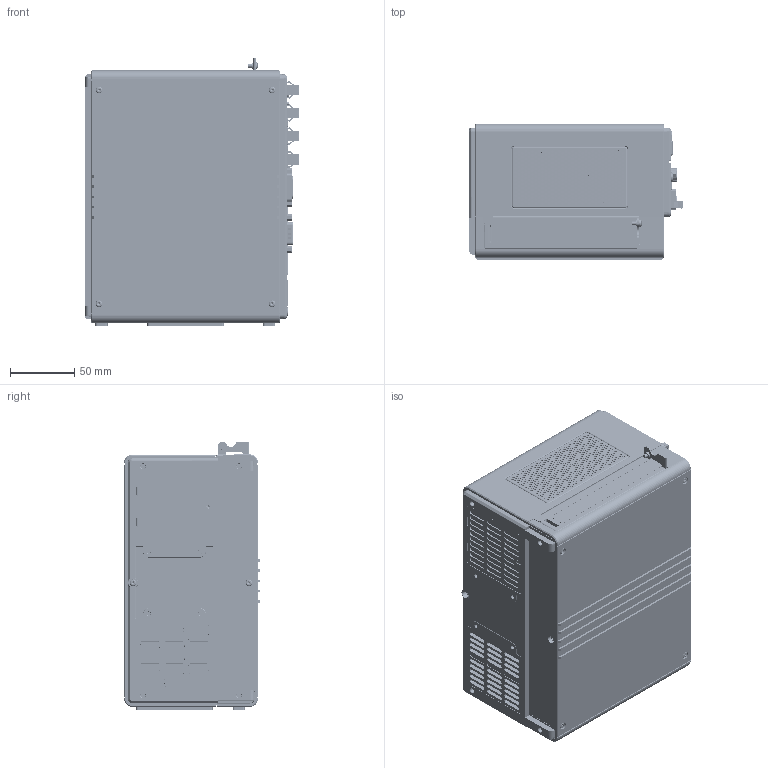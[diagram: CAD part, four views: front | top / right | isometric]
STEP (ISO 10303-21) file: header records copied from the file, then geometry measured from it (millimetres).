
FILE_DESCRIPTION((''),'2;1');
FILE_NAME('VC3000H','2023-05-25T15:18:00',('lizhenhao5'),(''),'CREO PARAMETRIC BY PTC INC, 2020044','CREO PARAMETRIC BY PTC INC, 2020044','');
FILE_SCHEMA(('CONFIG_CONTROL_DESIGN'));
Products named in the file (1): VC3000H
Bounding box: 166 x 105.5 x 208.5 mm (x, y, z)
Volume: 141771.7 mm3; surface area: 401569 mm2
Topology: 24 solids, 79 shells, 17608 faces, 49232 edges, 31635 vertices
Faces by surface type: plane 10949, cylinder 5386, torus 410, cone 316, bspline 315, sphere 146, extrusion 70, revolution 16
Entity records: 623498 total; most frequent: CARTESIAN_POINT 163308, ORIENTED_EDGE 98212, DIRECTION 92157, EDGE_CURVE 49106, VECTOR 35125, LINE 35055, VERTEX_POINT 31635, AXIS2_PLACEMENT_3D 28508
